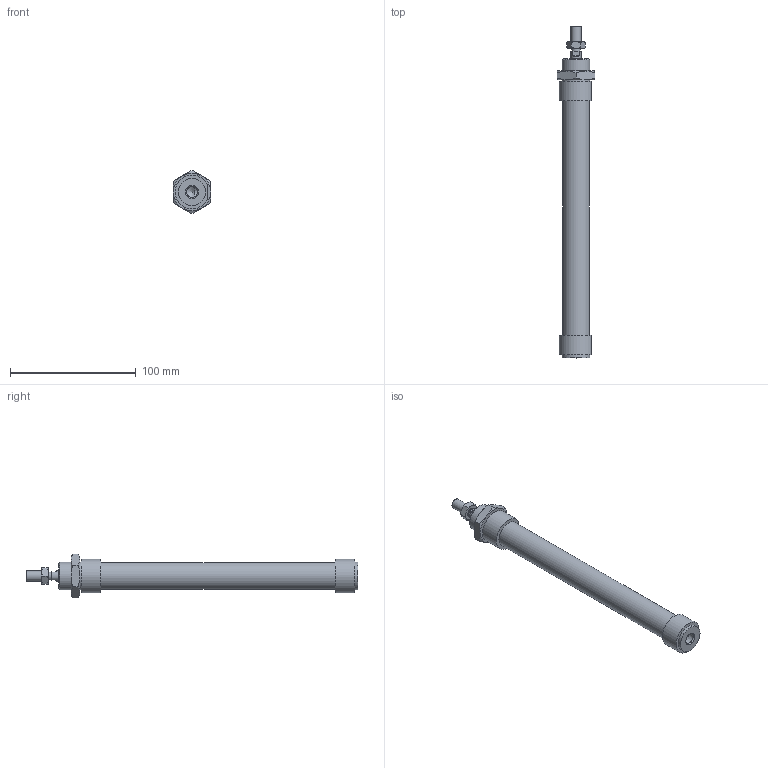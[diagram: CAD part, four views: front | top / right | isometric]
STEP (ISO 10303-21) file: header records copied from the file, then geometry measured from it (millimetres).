
FILE_DESCRIPTION((''),'2;1');
FILE_NAME('I:\Area Tecnica\Disegni\VARIE-3D\Componenti\1280\1281_##_####_#\1281_20_0150.iam.stp','2009-06-04T09:39:16',(''),(''),'Autodesk Inventor 2010','Autodesk Inventor 2010','');
FILE_SCHEMA(('AUTOMOTIVE_DESIGN { 1 0 10303 214 1 1 1 1 }'));
Length unit declared in the file: millimetre
Products named in the file (5): 1281_20_0150; C1281_20_150; S1280_20_150; 1200_20_05; 1200_20_06
Assembly tree (4 placements, depth 2):
  1281_20_0150
    C1281_20_150
    S1280_20_150
    1200_20_05
    1200_20_06
Bounding box: 30 x 264.5 x 34.64 mm (x, y, z)
Volume: 94267.9 mm3; surface area: 31007.3 mm2
Topology: 4 solids, 4 shells, 86 faces, 185 edges, 112 vertices
Faces by surface type: plane 36, cone 26, bspline 15, cylinder 9
Full cylindrical faces by diameter (mm): 6.5 x1, 8 x3, 21.2 x1, 22 x2
Entity records: 2537 total; most frequent: CARTESIAN_POINT 698, DIRECTION 332, ORIENTED_EDGE 310, EDGE_CURVE 155, AXIS2_PLACEMENT_3D 148, EDGE_LOOP 120, VERTEX_POINT 103, STYLED_ITEM 90
